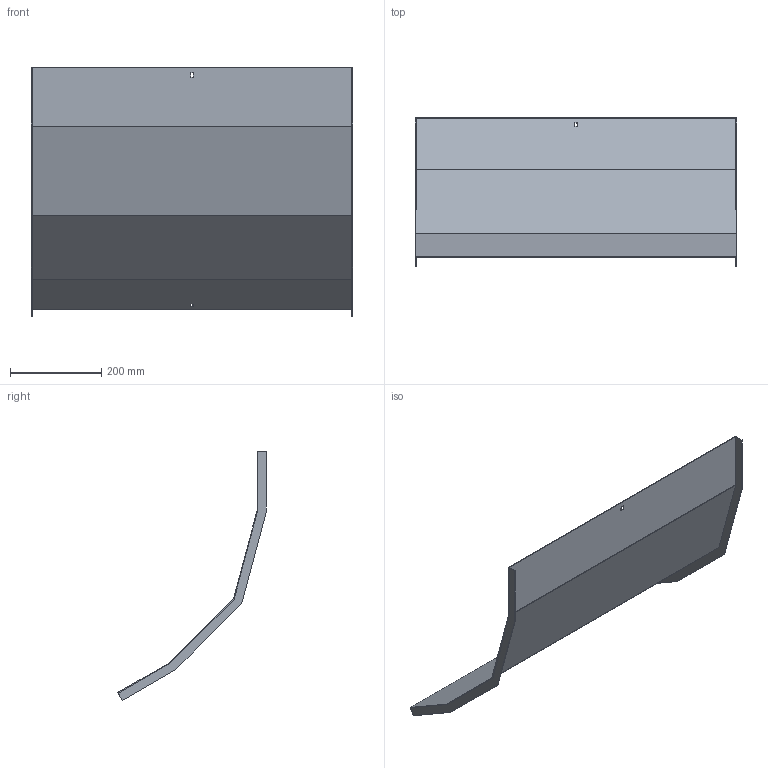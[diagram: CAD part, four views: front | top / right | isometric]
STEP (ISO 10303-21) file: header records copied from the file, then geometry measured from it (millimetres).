
FILE_DESCRIPTION (( 'STEP AP214' ), '1' );
FILE_NAME ('40N5R700_H150.step', '2025-02-21T14:29:19', ( '' ), ( '' ), 'SwSTEP 2.0', 'SolidWorks 2023', '' );
FILE_SCHEMA (( 'AUTOMOTIVE_DESIGN' ));
Length unit declared in the file: millimetre
Products named in the file (1): 40N5R700_H150
Bounding box: 703 x 324.8 x 545.25 mm (x, y, z)
Volume: 731678.7 mm3; surface area: 979920 mm2
Topology: 1 solids, 1 shells, 30 faces, 84 edges, 56 vertices
Faces by surface type: plane 30
Entity records: 979 total; most frequent: CARTESIAN_POINT 171, ORIENTED_EDGE 168, DIRECTION 146, VECTOR 84, LINE 84, EDGE_CURVE 84, VERTEX_POINT 56, EDGE_LOOP 34
